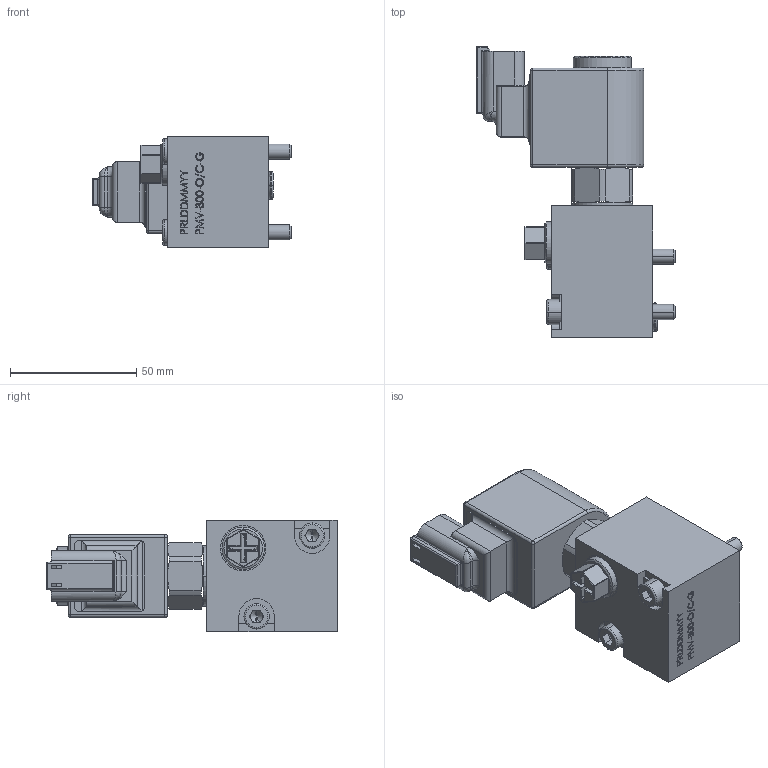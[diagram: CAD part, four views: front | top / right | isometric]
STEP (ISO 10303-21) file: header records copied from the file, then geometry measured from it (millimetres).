
FILE_DESCRIPTION (( 'STEP AP214' ), '1' );
FILE_NAME ('800.0536.STEP', '2023-10-27T10:52:37', ( '' ), ( '' ), 'SwSTEP 2.0', 'SolidWorks 2022', '' );
FILE_SCHEMA (( 'AUTOMOTIVE_DESIGN' ));
Length unit declared in the file: millimetre
Products named in the file (1): 800.0536
Bounding box: 78.8 x 115.15 x 44 mm (x, y, z)
Surface area: 28708.7 mm2 (no closed solid volume)
Topology: 0 solids, 11 shells, 499 faces, 1466 edges, 929 vertices
Faces by surface type: plane 250, cylinder 114, bspline 86, cone 24, torus 13, sphere 12
Entity records: 27211 total; most frequent: CARTESIAN_POINT 9345, ORIENTED_EDGE 2543, DIRECTION 2295, EDGE_CURVE 1449, VECTOR 943, LINE 943, VERTEX_POINT 929, AXIS2_PLACEMENT_3D 676
